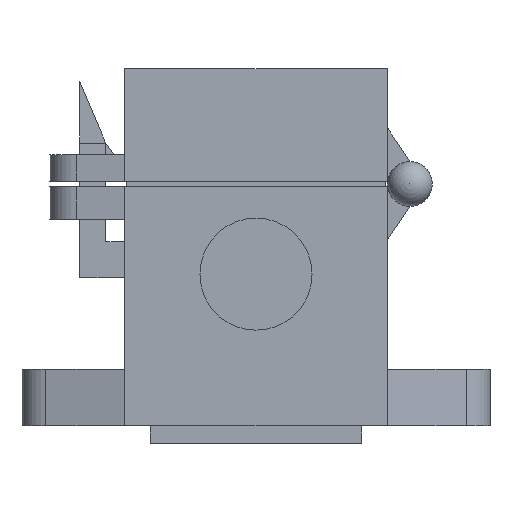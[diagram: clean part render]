
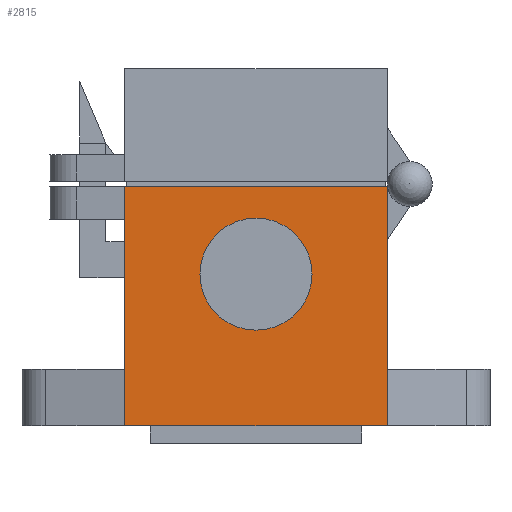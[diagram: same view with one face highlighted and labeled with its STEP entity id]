
A CAD part, front view. The second image highlights one B-rep face of the part: STEP entity #2815.
In plain terms, the highlighted planar face has unit normal (0, -1, 0).
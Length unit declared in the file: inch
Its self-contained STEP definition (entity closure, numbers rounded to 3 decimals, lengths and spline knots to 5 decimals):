
#79=CIRCLE('',#3017,0.375);
#139=FACE_BOUND('',#381,.T.);
#212=FACE_OUTER_BOUND('',#380,.T.);
#380=EDGE_LOOP('',(#2107,#2108,#2109,#2110,#2111,#2112));
#381=EDGE_LOOP('',(#2113));
#540=LINE('',#4025,#871);
#570=LINE('',#4110,#901);
#576=LINE('',#4125,#907);
#598=LINE('',#4185,#929);
#646=LINE('',#4300,#977);
#650=LINE('',#4307,#981);
#871=VECTOR('',#3207,0.3937);
#901=VECTOR('',#3281,0.3937);
#907=VECTOR('',#3295,0.3937);
#929=VECTOR('',#3349,0.3937);
#977=VECTOR('',#3461,0.3937);
#981=VECTOR('',#3467,0.3937);
#1202=VERTEX_POINT('',#4022);
#1203=VERTEX_POINT('',#4024);
#1233=VERTEX_POINT('',#4100);
#1235=VERTEX_POINT('',#4106);
#1241=VERTEX_POINT('',#4124);
#1282=VERTEX_POINT('',#4263);
#1298=VERTEX_POINT('',#4298);
#1462=EDGE_CURVE('',#1203,#1202,#540,.T.);
#1502=EDGE_CURVE('',#1235,#1233,#570,.T.);
#1509=EDGE_CURVE('',#1241,#1235,#576,.T.);
#1540=EDGE_CURVE('',#1241,#1202,#598,.T.);
#1578=EDGE_CURVE('',#1282,#1282,#79,.T.);
#1596=EDGE_CURVE('',#1298,#1233,#646,.T.);
#1600=EDGE_CURVE('',#1298,#1203,#650,.T.);
#2107=ORIENTED_EDGE('',*,*,#1600,.T.);
#2108=ORIENTED_EDGE('',*,*,#1462,.T.);
#2109=ORIENTED_EDGE('',*,*,#1540,.F.);
#2110=ORIENTED_EDGE('',*,*,#1509,.T.);
#2111=ORIENTED_EDGE('',*,*,#1502,.T.);
#2112=ORIENTED_EDGE('',*,*,#1596,.F.);
#2113=ORIENTED_EDGE('',*,*,#1578,.T.);
#2683=PLANE('',#3020);
#2815=ADVANCED_FACE('',(#212,#139),#2683,.T.);
#3017=AXIS2_PLACEMENT_3D('',#4264,#3438,#3439);
#3020=AXIS2_PLACEMENT_3D('',#4306,#3465,#3466);
#3207=DIRECTION('',(0.,0.,-1.));
#3281=DIRECTION('',(0.,0.,1.));
#3295=DIRECTION('',(1.,0.,0.));
#3349=DIRECTION('',(0.,0.,1.));
#3438=DIRECTION('center_axis',(0.,1.,0.));
#3439=DIRECTION('ref_axis',(-1.,0.,0.));
#3461=DIRECTION('',(0.,0.,-1.));
#3465=DIRECTION('center_axis',(0.,-1.,0.));
#3466=DIRECTION('ref_axis',(0.,0.,-1.));
#3467=DIRECTION('',(-1.,0.,0.));
#4022=CARTESIAN_POINT('',(0.3309,-1.53666,0.4955));
#4024=CARTESIAN_POINT('',(0.3309,-1.53666,1.7175));
#4025=CARTESIAN_POINT('',(0.3309,-1.53666,1.7175));
#4100=CARTESIAN_POINT('',(2.0909,-1.53666,0.4955));
#4106=CARTESIAN_POINT('',(2.0909,-1.53666,0.1175));
#4110=CARTESIAN_POINT('',(2.0909,-1.53666,0.1175));
#4124=CARTESIAN_POINT('',(0.3309,-1.53666,0.1175));
#4125=CARTESIAN_POINT('',(0.3309,-1.53666,0.1175));
#4185=CARTESIAN_POINT('',(0.3309,-1.53666,0.1175));
#4263=CARTESIAN_POINT('',(1.5859,-1.53666,1.1325));
#4264=CARTESIAN_POINT('Origin',(1.2109,-1.53666,1.1325));
#4298=CARTESIAN_POINT('',(2.0909,-1.53666,1.7175));
#4300=CARTESIAN_POINT('',(2.0909,-1.53666,1.7175));
#4306=CARTESIAN_POINT('Origin',(1.2109,-1.53666,0.1175));
#4307=CARTESIAN_POINT('',(2.0909,-1.53666,1.7175));
